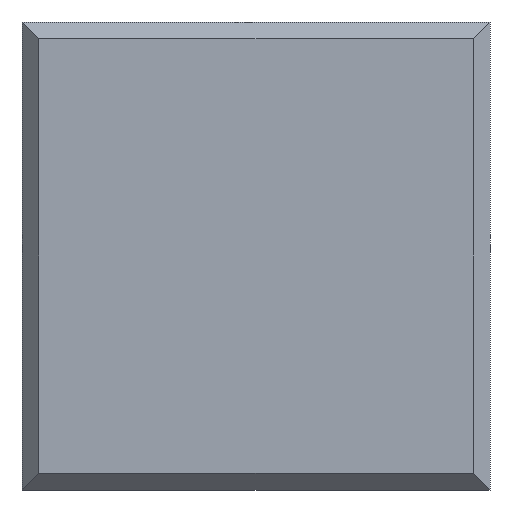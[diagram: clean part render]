
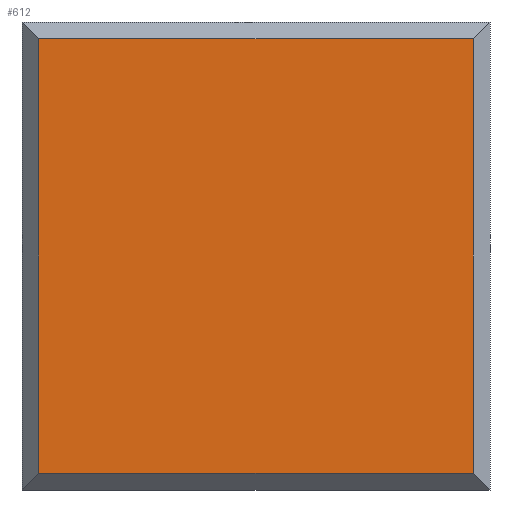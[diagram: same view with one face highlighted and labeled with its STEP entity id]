
A CAD part, front view. The second image highlights one B-rep face of the part: STEP entity #612.
In plain terms, the highlighted planar face has unit normal (0, -1, 0).
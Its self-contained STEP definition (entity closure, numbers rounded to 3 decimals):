
#6 = ORIENTED_EDGE ( 'NONE', *, *, #54, .F. ) ;
#54 = EDGE_CURVE ( 'NONE', #791, #419, #142, .T. ) ;
#62 = VECTOR ( 'NONE', #385, 1000. ) ;
#78 = CARTESIAN_POINT ( 'NONE',  ( 14., -10., 13. ) ) ;
#80 = ORIENTED_EDGE ( 'NONE', *, *, #502, .F. ) ;
#107 = EDGE_CURVE ( 'NONE', #791, #793, #647, .T. ) ;
#142 = LINE ( 'NONE', #78, #532 ) ;
#186 = VERTEX_POINT ( 'NONE', #917 ) ;
#189 = DIRECTION ( 'NONE',  ( -1., 0., 0. ) ) ;
#193 = PLANE ( 'NONE',  #325 ) ;
#204 = CARTESIAN_POINT ( 'NONE',  ( 13., -10., 13. ) ) ;
#225 = DIRECTION ( 'NONE',  ( 0., -1., 0. ) ) ;
#226 = FACE_OUTER_BOUND ( 'NONE', #780, .T. ) ;
#314 = ORIENTED_EDGE ( 'NONE', *, *, #745, .F. ) ;
#320 = DIRECTION ( 'NONE',  ( 1., 0., 0. ) ) ;
#325 = AXIS2_PLACEMENT_3D ( 'NONE', #204, #225, #189 ) ;
#385 = DIRECTION ( 'NONE',  ( 0., 0., -1. ) ) ;
#414 = LINE ( 'NONE', #428, #614 ) ;
#419 = VERTEX_POINT ( 'NONE', #530 ) ;
#428 = CARTESIAN_POINT ( 'NONE',  ( 14., -10., -13. ) ) ;
#437 = CARTESIAN_POINT ( 'NONE',  ( 13., -10., 14. ) ) ;
#438 = ORIENTED_EDGE ( 'NONE', *, *, #107, .T. ) ;
#495 = DIRECTION ( 'NONE',  ( -1., 0., 0. ) ) ;
#502 = EDGE_CURVE ( 'NONE', #419, #186, #639, .T. ) ;
#530 = CARTESIAN_POINT ( 'NONE',  ( 13., -10., 13. ) ) ;
#532 = VECTOR ( 'NONE', #320, 1000. ) ;
#610 = CARTESIAN_POINT ( 'NONE',  ( -13., -10., 13. ) ) ;
#612 = ADVANCED_FACE ( 'NONE', ( #226 ), #193, .T. ) ;
#614 = VECTOR ( 'NONE', #495, 1000. ) ;
#639 = LINE ( 'NONE', #437, #62 ) ;
#647 = LINE ( 'NONE', #610, #826 ) ;
#658 = CARTESIAN_POINT ( 'NONE',  ( -13., -10., 13. ) ) ;
#745 = EDGE_CURVE ( 'NONE', #186, #793, #414, .T. ) ;
#780 = EDGE_LOOP ( 'NONE', ( #6, #438, #314, #80 ) ) ;
#791 = VERTEX_POINT ( 'NONE', #658 ) ;
#793 = VERTEX_POINT ( 'NONE', #794 ) ;
#794 = CARTESIAN_POINT ( 'NONE',  ( -13., -10., -13. ) ) ;
#826 = VECTOR ( 'NONE', #929, 1000. ) ;
#917 = CARTESIAN_POINT ( 'NONE',  ( 13., -10., -13. ) ) ;
#929 = DIRECTION ( 'NONE',  ( 0., 0., -1. ) ) ;
